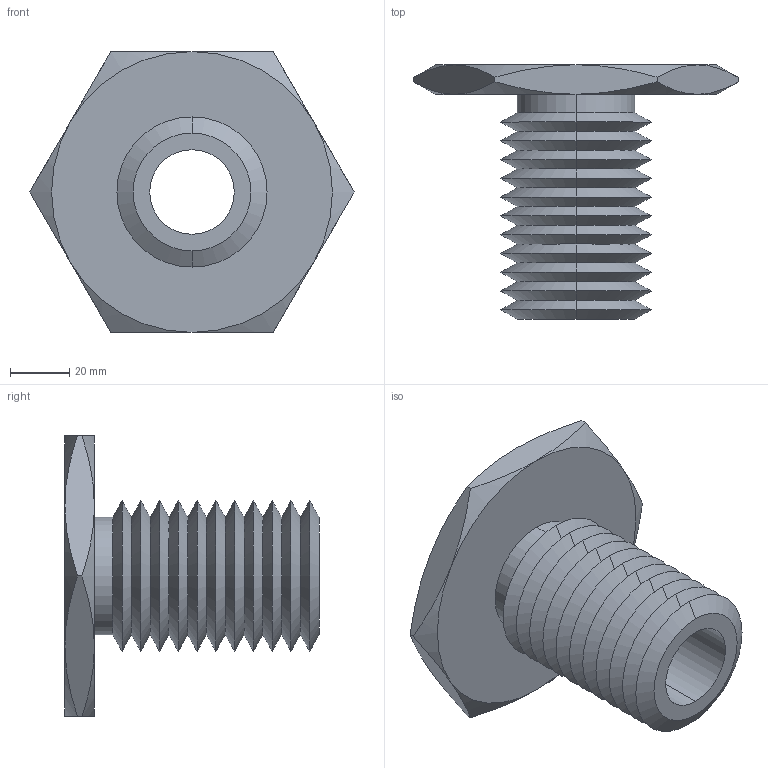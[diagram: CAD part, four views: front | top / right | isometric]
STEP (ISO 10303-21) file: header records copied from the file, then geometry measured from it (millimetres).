
FILE_DESCRIPTION (( 'STEP AP203' ), '1' );
FILE_NAME ('63302.W5200_1,12 UNC-7.step', '2013-12-08T11:50:38', ( 'User' ), ( '' ), 'SwSTEP 2.0', 'SolidWorks 2009', '' );
FILE_SCHEMA (( 'CONFIG_CONTROL_DESIGN' ));
Length unit declared in the file: millimetre
Products named in the file (1): 63302.W5200_1,12 UNC-7
Bounding box: 109.7 x 86 x 95 mm (x, y, z)
Volume: 141271.5 mm3; surface area: 45105.5 mm2
Topology: 1 solids, 1 shells, 71 faces, 146 edges, 78 vertices
Faces by surface type: cone 58, plane 9, cylinder 4
Entity records: 2071 total; most frequent: CARTESIAN_POINT 512, DIRECTION 332, ORIENTED_EDGE 292, EDGE_CURVE 146, AXIS2_PLACEMENT_3D 138, VERTEX_POINT 78, EDGE_LOOP 74, ADVANCED_FACE 71
